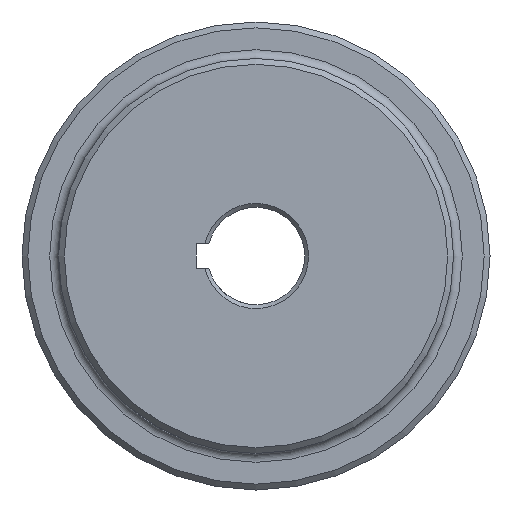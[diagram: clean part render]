
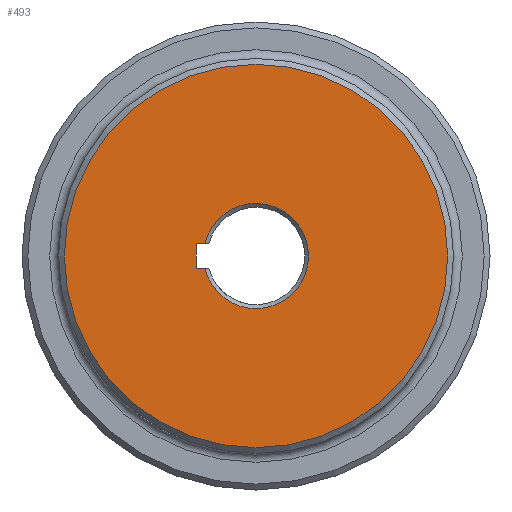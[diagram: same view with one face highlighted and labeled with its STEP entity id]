
A CAD part, left-side view. The second image highlights one B-rep face of the part: STEP entity #493.
In plain terms, the highlighted planar face has unit normal (-1, 0, 0).
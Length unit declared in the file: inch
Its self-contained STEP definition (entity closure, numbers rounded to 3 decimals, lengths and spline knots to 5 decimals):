
#226 = DIRECTION ( 'NONE',  ( 0., 0., -1. ) ) ;
#307 = VECTOR ( 'NONE', #1660, 39.37008 ) ;
#365 = CARTESIAN_POINT ( 'NONE',  ( 0., 0.61485, -0.125 ) ) ;
#378 = DIRECTION ( 'NONE',  ( 0., 0., -1. ) ) ;
#447 = CARTESIAN_POINT ( 'NONE',  ( 0., 0.52549, -0.125 ) ) ;
#493 = ADVANCED_FACE ( 'NONE', ( #1128, #2696 ), #1581, .F. ) ;
#528 = EDGE_CURVE ( 'NONE', #853, #659, #576, .T. ) ;
#543 = LINE ( 'NONE', #365, #307 ) ;
#576 = LINE ( 'NONE', #707, #1395 ) ;
#635 = CIRCLE ( 'NONE', #1819, 0.54015 ) ;
#659 = VERTEX_POINT ( 'NONE', #1147 ) ;
#707 = CARTESIAN_POINT ( 'NONE',  ( 0., 0., 0.125 ) ) ;
#772 = AXIS2_PLACEMENT_3D ( 'NONE', #2624, #1403, #226 ) ;
#780 = DIRECTION ( 'NONE',  ( 0., 0., -1. ) ) ;
#809 = CIRCLE ( 'NONE', #772, 1.97 ) ;
#853 = VERTEX_POINT ( 'NONE', #2098 ) ;
#855 = ORIENTED_EDGE ( 'NONE', *, *, #2530, .T. ) ;
#958 = EDGE_CURVE ( 'NONE', #659, #1928, #543, .T. ) ;
#963 = LINE ( 'NONE', #2532, #2547 ) ;
#999 = ORIENTED_EDGE ( 'NONE', *, *, #2090, .F. ) ;
#1078 = EDGE_LOOP ( 'NONE', ( #1132, #855, #999, #2553 ) ) ;
#1128 = FACE_OUTER_BOUND ( 'NONE', #1433, .T. ) ;
#1132 = ORIENTED_EDGE ( 'NONE', *, *, #528, .F. ) ;
#1147 = CARTESIAN_POINT ( 'NONE',  ( 0., 0.61485, 0.125 ) ) ;
#1355 = DIRECTION ( 'NONE',  ( 1., 0., 0. ) ) ;
#1368 = CARTESIAN_POINT ( 'NONE',  ( 0., 0.61485, -0.125 ) ) ;
#1395 = VECTOR ( 'NONE', #2138, 39.37008 ) ;
#1403 = DIRECTION ( 'NONE',  ( -1., 0., 0. ) ) ;
#1433 = EDGE_LOOP ( 'NONE', ( #2339 ) ) ;
#1581 = PLANE ( 'NONE',  #1908 ) ;
#1660 = DIRECTION ( 'NONE',  ( 0., 0., -1. ) ) ;
#1809 = CARTESIAN_POINT ( 'NONE',  ( 0., 0., 0. ) ) ;
#1819 = AXIS2_PLACEMENT_3D ( 'NONE', #2205, #1837, #378 ) ;
#1837 = DIRECTION ( 'NONE',  ( 1., 0., 0. ) ) ;
#1850 = CARTESIAN_POINT ( 'NONE',  ( 0., 0., -1.97 ) ) ;
#1908 = AXIS2_PLACEMENT_3D ( 'NONE', #1809, #1355, #780 ) ;
#1928 = VERTEX_POINT ( 'NONE', #1368 ) ;
#2045 = EDGE_CURVE ( 'NONE', #2219, #2219, #809, .T. ) ;
#2090 = EDGE_CURVE ( 'NONE', #1928, #2181, #963, .T. ) ;
#2098 = CARTESIAN_POINT ( 'NONE',  ( 0., 0.52549, 0.125 ) ) ;
#2138 = DIRECTION ( 'NONE',  ( 0., 1., 0. ) ) ;
#2181 = VERTEX_POINT ( 'NONE', #447 ) ;
#2205 = CARTESIAN_POINT ( 'NONE',  ( 0., 0., 0. ) ) ;
#2219 = VERTEX_POINT ( 'NONE', #1850 ) ;
#2311 = DIRECTION ( 'NONE',  ( 0., -1., 0. ) ) ;
#2339 = ORIENTED_EDGE ( 'NONE', *, *, #2045, .T. ) ;
#2530 = EDGE_CURVE ( 'NONE', #853, #2181, #635, .T. ) ;
#2532 = CARTESIAN_POINT ( 'NONE',  ( 0., 0., -0.125 ) ) ;
#2547 = VECTOR ( 'NONE', #2311, 39.37008 ) ;
#2553 = ORIENTED_EDGE ( 'NONE', *, *, #958, .F. ) ;
#2624 = CARTESIAN_POINT ( 'NONE',  ( 0., 0., 0. ) ) ;
#2696 = FACE_BOUND ( 'NONE', #1078, .T. ) ;
